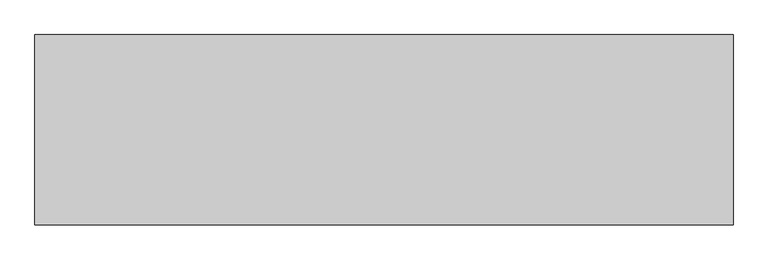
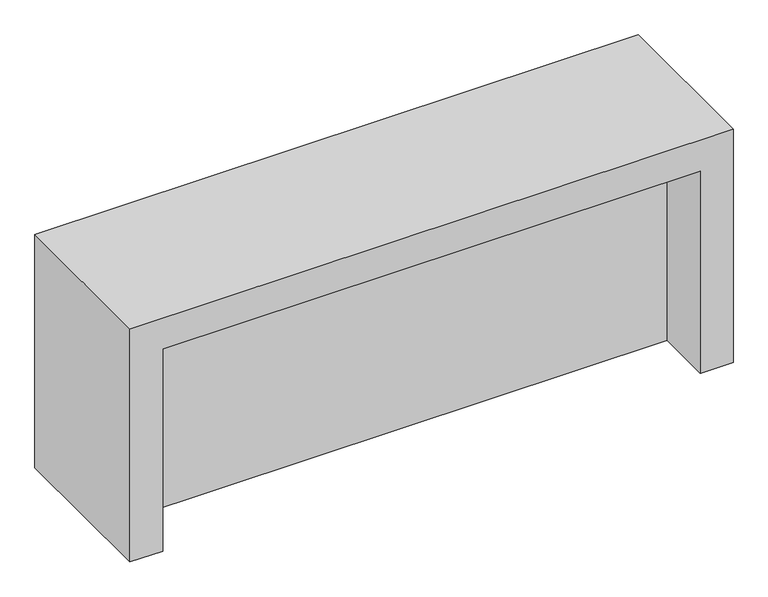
"""IFC4 building model written with IfcOpenShell, lengths in millimetres: furniture geometry, C08 Mesa circulación simple : C08 Mesa circulación simple."""

from ifc_helpers import new_model, si_unit, frame, origin, origin_with_axes, place, context, project, spatial, polyline, outline, extrude, source, transform, mapped, element, save


def furniture_bd1b491a(model_context):
    return source(origin(), model_context, "Body", "SweptSolid", [
        extrude(outline(polyline([(980.0, 75.0), (-980.0, 75.0), (-980.0, 155.0), (980.0, 155.0), (980.0, 75.0)])), origin_with_axes(), (0.0, 0.0, 1.0), 780.0),
        extrude(outline(polyline([(900.0, -1100.0), (0.0, -1100.0), (0.0, -980.0), (780.0, -980.0), (780.0, 980.0), (0.0, 980.0), (0.0, 1100.0), (900.0, 1100.0), (900.0, -1100.0)])), frame((0.0, -135.0, 0.0), z_axis=(0.0, 1.0, 0.0), x_axis=(0.0, 0.0, 1.0)), (0.0, 0.0, 1.0), 600.0),
    ])


if __name__ == "__main__":
    model = new_model("IFC4")
    model_context = context("Model", 3, world=origin())
    ifc_project = project(units=[si_unit("LENGTHUNIT", "METRE", prefix="MILLI")], contexts=[model_context])
    site = spatial("IfcSite", under=ifc_project)
    building = spatial("IfcBuilding", under=site)
    placement = place(None, origin())
    furniture_shape = furniture_bd1b491a(model_context)
    element("IfcFurniture", 1, ObjectType="C08 Mesa circulación simple : C08 Mesa circulación simple", at=placement, inside=building, context=model_context, shape_type="MappedRepresentation", body=[
        mapped(furniture_shape, transform((0.0, 0.0, 0.0), x_axis=(1.0, 0.0, 0.0), y_axis=(0.0, 1.0, 0.0), z_axis=(0.0, 0.0, 1.0))),
    ])
    save(model, "model.ifc")
